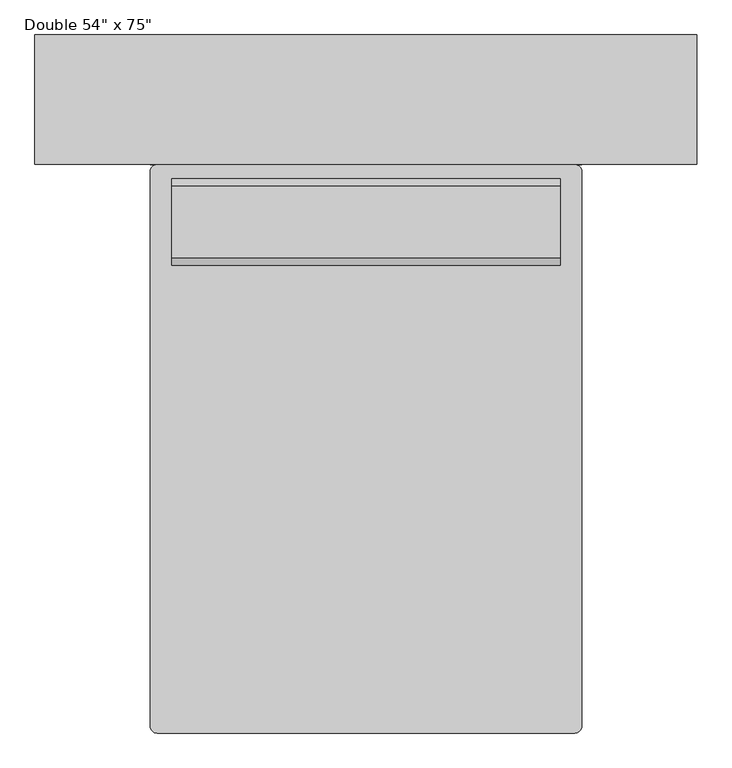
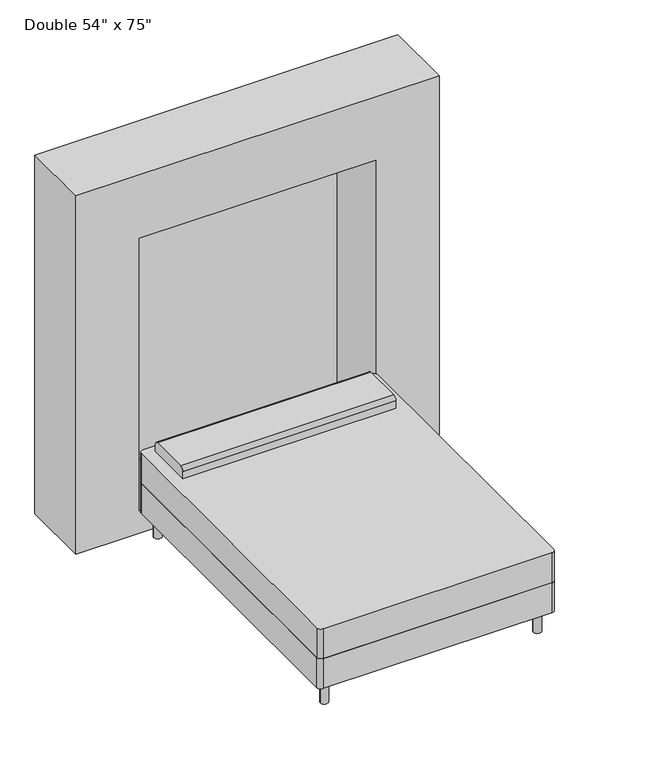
"""IFC4 building model written with IfcOpenShell, lengths in millimetres: furniture geometry."""

from ifc_helpers import new_model, si_unit, point, frame, frame_2d, origin, origin_with_axes, place, context, project, spatial, polyline, circle_curve, trimmed, segment, composite_curve, outline, extrude, faceted_brep, source, transform, mapped, element, save


def furniture_b95f40c9(model_context):
    return source(origin(), model_context, "Body", "SolidModel", [
        extrude(outline(composite_curve([segment(polyline([(-490.5114754, -1023.495082), (-490.5114754, 932.304918)]), True, "CONTINUOUS"), segment(trimmed(circle_curve(frame_2d((-465.1114754, 932.304918)), 25.4), [point((-490.5114754, 932.304918))], [point((-465.1114754, 957.704918))], False, "CARTESIAN"), True, "CONTINUOUS"), segment(polyline([(-465.1114754, 957.704918), (1008.0885246, 957.704918)]), True, "CONTINUOUS"), segment(trimmed(circle_curve(frame_2d((1008.0885246, 932.304918)), 25.4), [point((1008.0885246, 957.704918))], [point((1033.4885246, 932.304918))], False, "CARTESIAN"), True, "CONTINUOUS"), segment(polyline([(1033.4885246, 932.304918), (1033.4885246, -1023.495082)]), True, "CONTINUOUS"), segment(trimmed(circle_curve(frame_2d((1008.0885246, -1023.495082)), 25.4), [point((1033.4885246, -1023.495082))], [point((1008.0885246, -1048.895082))], False, "CARTESIAN"), True, "CONTINUOUS"), segment(polyline([(1008.0885246, -1048.895082), (-465.1114754, -1048.895082)]), True, "CONTINUOUS"), segment(trimmed(circle_curve(frame_2d((-465.1114754, -1023.495082)), 25.4), [point((-465.1114754, -1048.895082))], [point((-490.5114754, -1023.495082))], False, "CARTESIAN"), True, "CONTINUOUS")], self_intersect=False)), frame((0.0, 0.0, 152.4), z_axis=(0.0, 0.0, 1.0), x_axis=(1.0, 0.0, 0.0)), (0.0, 0.0, 1.0), 203.2),
        extrude(outline(composite_curve([segment(polyline([(-465.1114754, 957.704918), (1008.0885246, 957.704918)]), True, "CONTINUOUS"), segment(trimmed(circle_curve(frame_2d((1008.0885246, 932.304918)), 25.4), [point((1008.0885246, 957.704918))], [point((1033.4885246, 932.304918))], False, "CARTESIAN"), True, "CONTINUOUS"), segment(polyline([(1033.4885246, 932.304918), (1033.4885246, -1023.495082)]), True, "CONTINUOUS"), segment(trimmed(circle_curve(frame_2d((1008.0885246, -1023.495082)), 25.4), [point((1033.4885246, -1023.495082))], [point((1008.0885246, -1048.895082))], False, "CARTESIAN"), True, "CONTINUOUS"), segment(polyline([(1008.0885246, -1048.895082), (-465.1114754, -1048.895082)]), True, "CONTINUOUS"), segment(trimmed(circle_curve(frame_2d((-465.1114754, -1023.495082)), 25.4), [point((-465.1114754, -1048.895082))], [point((-490.5114754, -1023.495082))], False, "CARTESIAN"), True, "CONTINUOUS"), segment(polyline([(-490.5114754, -1023.495082), (-490.5114754, 932.304918)]), True, "CONTINUOUS"), segment(trimmed(circle_curve(frame_2d((-465.1114754, 932.304918)), 25.4), [point((-490.5114754, 932.304918))], [point((-465.1114754, 957.704918))], False, "CARTESIAN"), True, "CONTINUOUS")], self_intersect=False)), frame((0.0, 0.0, 355.6), z_axis=(0.0, 0.0, 1.0), x_axis=(1.0, 0.0, 0.0)), (0.0, 0.0, 1.0), 203.2),
        extrude(outline(composite_curve([segment(polyline([(602.104918, 558.8), (602.104918, 609.6)]), True, "CONTINUOUS"), segment(trimmed(circle_curve(frame_2d((627.504918, 609.6)), 25.4), [point((602.104918, 609.6))], [point((627.504918, 635.0))], False, "CARTESIAN"), True, "CONTINUOUS"), segment(polyline([(627.504918, 635.0), (881.504918, 635.0)]), True, "CONTINUOUS"), segment(trimmed(circle_curve(frame_2d((881.504918, 609.6)), 25.4), [point((881.504918, 635.0))], [point((906.904918, 609.6))], False, "CARTESIAN"), True, "CONTINUOUS"), segment(polyline([(906.904918, 609.6), (906.904918, 558.8), (602.104918, 558.8)]), True, "CONTINUOUS")], self_intersect=False)), frame((-414.3114754, 0.0, 0.0), z_axis=(1.0, 0.0, 0.0), x_axis=(0.0, 1.0, 0.0)), (0.0, 0.0, 1.0), 1371.6),
        extrude(outline(composite_curve([segment(trimmed(circle_curve(frame_2d((-414.3114754, 881.504918)), 25.4), [point((-439.7114754, 881.504918))], [point((-388.9114754, 881.504918))], False, "CARTESIAN"), True, "CONTINUOUS"), segment(trimmed(circle_curve(frame_2d((-414.3114754, 881.504918)), 25.4), [point((-388.9114754, 881.504918))], [point((-439.7114754, 881.504918))], False, "CARTESIAN"), True, "CONTINUOUS")], self_intersect=False)), origin_with_axes(), (0.0, 0.0, 1.0), 152.4),
        extrude(outline(composite_curve([segment(trimmed(circle_curve(frame_2d((957.2885246, 881.504918)), 25.4), [point((931.8885246, 881.504918))], [point((982.6885246, 881.504918))], False, "CARTESIAN"), True, "CONTINUOUS"), segment(trimmed(circle_curve(frame_2d((957.2885246, 881.504918)), 25.4), [point((982.6885246, 881.504918))], [point((931.8885246, 881.504918))], False, "CARTESIAN"), True, "CONTINUOUS")], self_intersect=False)), origin_with_axes(), (0.0, 0.0, 1.0), 152.4),
        extrude(outline(composite_curve([segment(trimmed(circle_curve(frame_2d((957.2885246, -972.695082)), 25.4), [point((931.8885246, -972.695082))], [point((982.6885246, -972.695082))], False, "CARTESIAN"), True, "CONTINUOUS"), segment(trimmed(circle_curve(frame_2d((957.2885246, -972.695082)), 25.4), [point((982.6885246, -972.695082))], [point((931.8885246, -972.695082))], False, "CARTESIAN"), True, "CONTINUOUS")], self_intersect=False)), origin_with_axes(), (0.0, 0.0, 1.0), 152.4),
        extrude(outline(composite_curve([segment(trimmed(circle_curve(frame_2d((-414.3114754, -972.695082)), 25.4), [point((-439.7114754, -972.695082))], [point((-388.9114754, -972.695082))], False, "CARTESIAN"), True, "CONTINUOUS"), segment(trimmed(circle_curve(frame_2d((-414.3114754, -972.695082)), 25.4), [point((-388.9114754, -972.695082))], [point((-439.7114754, -972.695082))], False, "CARTESIAN"), True, "CONTINUOUS")], self_intersect=False)), origin_with_axes(), (0.0, 0.0, 1.0), 152.4),
        faceted_brep([(1439.8885246, 957.704918, 2438.4), (1439.8885246, 1414.904918, 2438.4), (-896.9114754, 1414.904918, 2438.4), (-896.9114754, 957.704918, 2438.4), (1439.8885246, 957.704918, 0.0), (-896.9114754, 957.704918, 0.0), (-896.9114754, 1414.904918, 0.0), (1439.8885246, 1414.904918, 0.0), (-490.5114754, 957.704918, 2006.6), (1033.4885246, 957.704918, 2006.6), (1033.4885246, 957.704918, 152.4), (-490.5114754, 957.704918, 152.4), (1033.4885246, 1389.504918, 2006.6), (-490.5114754, 1389.504918, 2006.6), (1033.4885246, 1389.504918, 152.4), (-490.5114754, 1389.504918, 152.4)], [[[0, 1, 2, 3]], [[4, 5, 6, 7]], [[1, 0, 4, 7]], [[2, 1, 7, 6]], [[3, 2, 6, 5]], [[0, 3, 5, 4], [8, 9, 10, 11]], [[12, 9, 8, 13]], [[14, 15, 11, 10]], [[12, 13, 15, 14]], [[13, 8, 11, 15]], [[9, 12, 14, 10]]]),
    ])


if __name__ == "__main__":
    model = new_model("IFC4")
    model_context = context("Model", 3, world=origin())
    ifc_project = project(units=[si_unit("LENGTHUNIT", "METRE", prefix="MILLI")], contexts=[model_context])
    site = spatial("IfcSite", under=ifc_project)
    building = spatial("IfcBuilding", under=site)
    placement = place(None, origin())
    furniture_shape = furniture_b95f40c9(model_context)
    element("IfcFurniture", 1, ObjectType="Bed-Murphy_Standard : Double 54\" x 75\"", at=placement, inside=building, context=model_context, shape_type="MappedRepresentation", body=[
        mapped(furniture_shape, transform((0.0, 0.0, 0.0), x_axis=(1.0, 0.0, 0.0), y_axis=(0.0, 1.0, 0.0), z_axis=(0.0, 0.0, 1.0))),
    ])
    save(model, "model.ifc")
